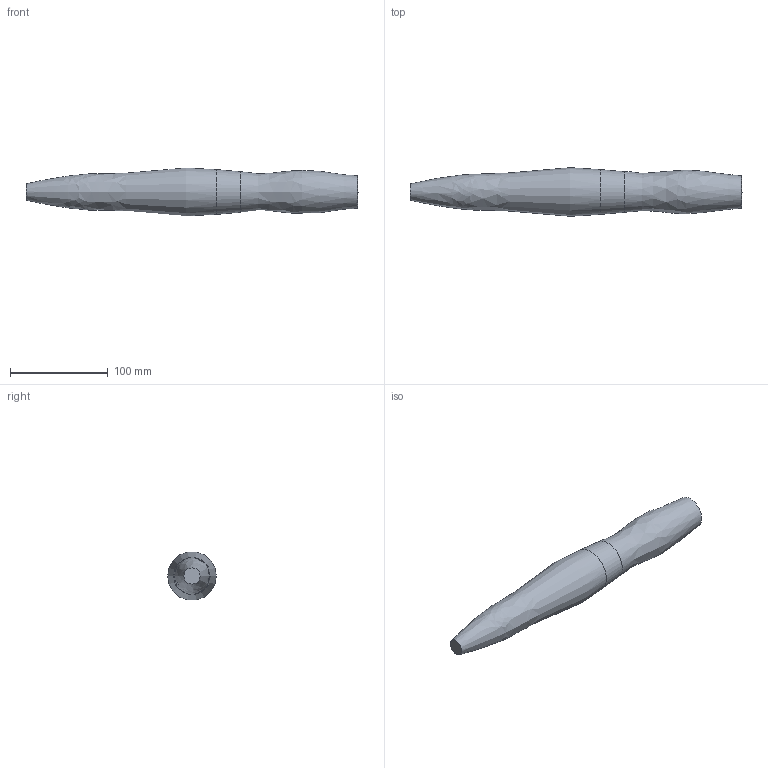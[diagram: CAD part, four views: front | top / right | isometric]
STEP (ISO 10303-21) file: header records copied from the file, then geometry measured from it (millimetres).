
FILE_DESCRIPTION((''),'2;1');
FILE_NAME('J:\Projekte\Kunststoff-Blechteile\Zeichnungen\Bibliothek Inventor\3D Solids\pico+\STP\detection range 25 pipe.stp','2009-05-11T13:47:59',('Oliver Liedtke'),(''),'Autodesk Inventor 2009','Autodesk Inventor 2009','');
FILE_SCHEMA(('AUTOMOTIVE_DESIGN { 1 0 10303 214 1 1 1 1 }'));
Length unit declared in the file: millimetre
Products named in the file (1): detection range 25 pipe
Bounding box: 340.1 x 49.84 x 49.08 mm (x, y, z)
Volume: 431463.3 mm3; surface area: 43523.9 mm2
Topology: 1 solids, 1 shells, 5 faces, 9 edges, 5 vertices
Faces by surface type: revolution 3, cone 1, plane 1
Entity records: 181 total; most frequent: CARTESIAN_POINT 56, DIRECTION 17, ORIENTED_EDGE 14, AXIS2_PLACEMENT_3D 7, EDGE_CURVE 7, EDGE_LOOP 5, FACE_OUTER_BOUND 5, ADVANCED_FACE 5
